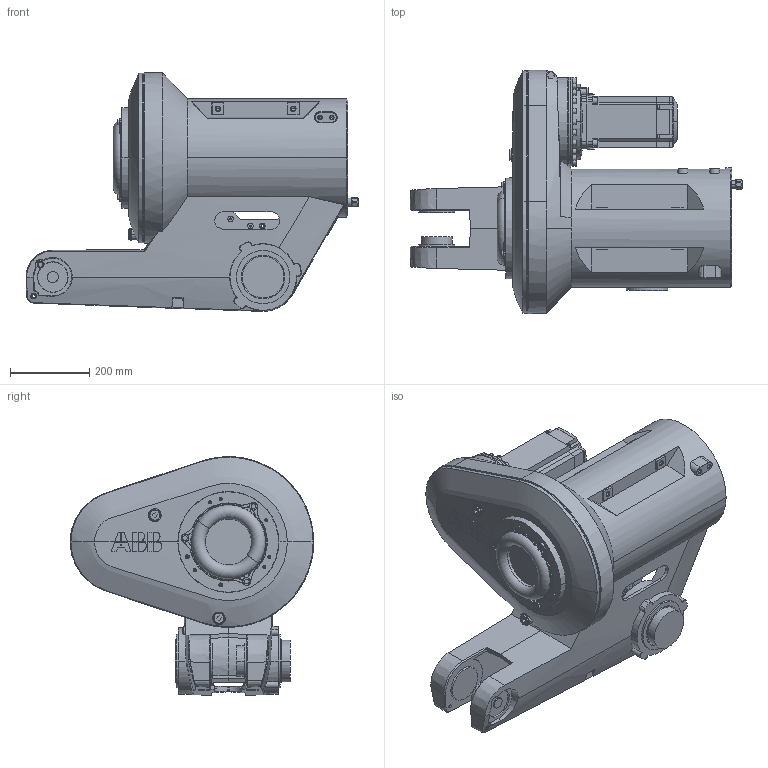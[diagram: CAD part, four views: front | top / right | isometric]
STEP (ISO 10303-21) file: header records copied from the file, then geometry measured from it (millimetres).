
FILE_DESCRIPTION (( 'STEP AP214' ), '1' );
FILE_NAME ('IRB7710_All_OC_00_LINK3_CAD.STEP', '2023-11-14T11:53:54', ( '' ), ( '' ), 'SwSTEP 2.0', 'SolidWorks 2022', '' );
FILE_SCHEMA (( 'AUTOMOTIVE_DESIGN' ));
Length unit declared in the file: millimetre
Products named in the file (1): IRB7710_All_OC_00_LINK3_CAD
Bounding box: 836.33 x 612.9 x 601.44 mm (x, y, z)
Volume: 59490707.6 mm3; surface area: 2311264.6 mm2
Topology: 1 solids, 1 shells, 1365 faces, 3440 edges, 2194 vertices
Faces by surface type: plane 580, cone 331, cylinder 323, bspline 92, torus 23, sphere 16
Entity records: 58378 total; most frequent: CARTESIAN_POINT 24514, ORIENTED_EDGE 6828, DIRECTION 6369, EDGE_CURVE 3414, AXIS2_PLACEMENT_3D 2409, VERTEX_POINT 2194, VECTOR 1551, LINE 1551
